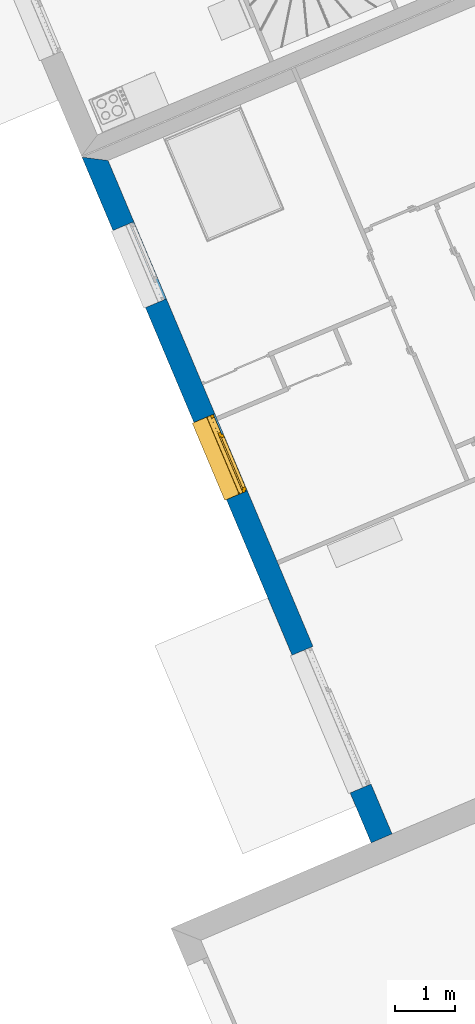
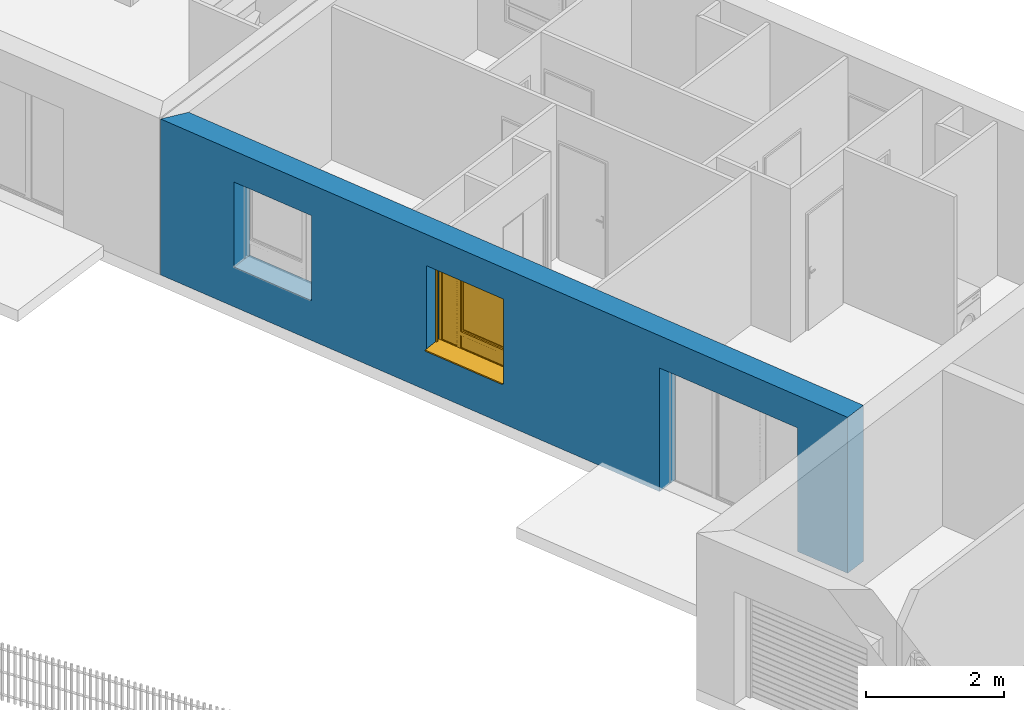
# One storey, part 50 of 195: 1 wall, 1 window, 3 openings.
"""IFC2X3 building model written with IfcOpenShell, lengths in metres."""

from ifc_helpers import new_model, entity, si_unit, converted_unit, derived_unit, money_unit, direction, frame, origin_with_axes, place, context, subcontext, project, spatial, polyline, outline, extrude, open_shell, faceted_brep, surface_model, source, transform, mapped, material, layer, layer_set, layer_usage, type_object, element, fill, save


model = new_model("IFC2X3")

# Units and contexts
model_context = context("Model", 3, precision=1e-05, world=origin_with_axes(), true_north=direction((0.0, 1.0)))
body_context = subcontext(model_context, "Body", "Model", "MODEL_VIEW")
ifc_project = project(units=[si_unit("LENGTHUNIT", "METRE"), si_unit("AREAUNIT", "SQUARE_METRE"), si_unit("VOLUMEUNIT", "CUBIC_METRE"), converted_unit("PLANEANGLEUNIT", "DEGREE", entity("IfcPlaneAngleMeasure", 0.0174532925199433), si_unit("PLANEANGLEUNIT", "RADIAN"), dimensions=[0, 0, 0, 0, 0, 0, 0]), money_unit("CHF"), converted_unit("TIMEUNIT", "Year", entity("IfcTimeMeasure", 31557600.0), si_unit("TIMEUNIT", "SECOND"), dimensions=[0, 0, 1, 0, 0, 0, 0]), si_unit("MASSUNIT", "GRAM", prefix="KILO"), si_unit("THERMODYNAMICTEMPERATUREUNIT", "DEGREE_CELSIUS"), si_unit("LUMINOUSINTENSITYUNIT", "LUMEN"), si_unit("ENERGYUNIT", "JOULE", prefix="MEGA"), derived_unit("THERMALCONDUCTANCEUNIT", [(si_unit("POWERUNIT", "WATT"), 1), (si_unit("LENGTHUNIT", "METRE"), -1), (si_unit("THERMODYNAMICTEMPERATUREUNIT", "KELVIN"), -1)]), derived_unit("SPECIFICHEATCAPACITYUNIT", [(si_unit("ENERGYUNIT", "JOULE"), 1), (si_unit("MASSUNIT", "GRAM", prefix="KILO"), -1), (si_unit("THERMODYNAMICTEMPERATUREUNIT", "KELVIN"), -1)]), derived_unit("MASSDENSITYUNIT", [(si_unit("MASSUNIT", "GRAM", prefix="KILO"), 1), (si_unit("VOLUMEUNIT", "CUBIC_METRE"), -1)])], contexts=[model_context])

# Site, building, storey
site_placement = place(None, origin_with_axes())
site = spatial("IfcSite", under=ifc_project, at=site_placement, Name="Site", CompositionType="ELEMENT")
building_placement = place(site_placement, origin_with_axes())
building = spatial("IfcBuilding", under=site, at=building_placement, Name="Bâtiment", CompositionType="ELEMENT")
storey_placement = place(building_placement, origin_with_axes())
storey = spatial("IfcBuildingStorey", under=building, at=storey_placement, Name="rdc", CompositionType="ELEMENT", Elevation=0.0)

# Wall, openings, window
ifc_material_1 = material(Name="Parpaing 312445824")
ifc_layer_1 = layer(ifc_material_1, 0.22, ventilated="UNKNOWN")
ifc_material_2 = material(Name="Isolant styromousse 301821074")
ifc_layer_2 = layer(ifc_material_2, 0.16, ventilated="UNKNOWN")
ifc_layer_set = layer_set([ifc_layer_1, ifc_layer_2], Name="isol int 22+16 0836643197")
ifc_layer_usage = layer_usage(ifc_layer_set, "AXIS2", "POSITIVE", 0.0)
wall_type = type_object("IfcWallType", Name="isol int 22+16 0836643197 380", PredefinedType="NOTDEFINED")
wall_placement = place(storey_placement, frame((9563.373486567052, -1045.540246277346, 57.7), z_axis=(0.0, 0.0, 1.0), x_axis=(0.388566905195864, -0.9214205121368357, 0.0)))
wall = element("IfcWallStandardCase", 1, at=wall_placement, inside=storey, type_object=wall_type, material=ifc_layer_usage, Name="Mur-113", context=body_context, shape_type="SweptSolid", body=[
    extrude(outline(polyline([(-0.2199999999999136, 0.0), (12.22992275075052, 0.0), (12.22820255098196, 0.3800000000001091), (0.0, 0.3800000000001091), (-0.2199999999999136, 0.0)])), origin_with_axes(), (0.0, 0.0, 1.0), 2.75),
])
opening_1_placement = place(wall_placement, frame((5.297694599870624, 0.0, 0.7000000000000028), z_axis=(0.0, 0.0, 1.0), x_axis=(1.0, 0.0, 0.0)))
opening_1 = element("IfcOpeningElement", 2, at=opening_1_placement, cuts=wall, Name="Fen-045", context=body_context, shape_type="Brep", body=[
    faceted_brep([(-0.7000000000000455, 0.4799999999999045, 1.5), (0.6999999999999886, 0.4799999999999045, 1.5), (0.7000000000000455, 4.75972225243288, 1.5), (-0.6999999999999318, 4.75972225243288, 1.5), (-0.7000000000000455, 0.4799999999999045, 1.700000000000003), (0.6999999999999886, 0.4799999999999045, 1.700000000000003), (0.6999999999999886, 0.2999999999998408, 1.5), (0.6999999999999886, 0.2999999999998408, 0.0), (0.7000000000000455, 4.75972225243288, 0.0), (-0.6999999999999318, 4.75972225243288, 0.0), (-0.6999999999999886, 0.2999999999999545, 1.5), (-0.6999999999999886, 0.2999999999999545, 0.0), (-0.6999999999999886, 0.2199999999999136, 1.5), (-0.6999999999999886, 0.2199999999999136, 1.700000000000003), (0.7000000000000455, 0.2199999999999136, 1.700000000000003), (0.7000000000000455, 0.2199999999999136, 1.5), (0.6999999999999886, -4.379722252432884, 1.5), (0.6999999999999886, -4.379722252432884, 0.0), (-0.6999999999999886, -4.379722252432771, 0.0), (-0.6999999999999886, -4.379722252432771, 1.5)], [[[0, 1, 2, 3]], [[1, 0, 4, 5]], [[1, 6, 7, 8, 2]], [[2, 8, 9, 3]], [[10, 0, 3, 9, 11]], [[0, 10, 12, 13, 4]], [[4, 13, 14, 5]], [[6, 1, 5, 14, 15]], [[6, 15, 16, 17, 7]], [[7, 11, 9, 8]], [[12, 10, 11, 18, 19]], [[12, 15, 14, 13]], [[15, 12, 19, 16]], [[19, 18, 17, 16]], [[11, 7, 17, 18]]]),
])
opening_2_placement = place(wall_placement, frame((1.812199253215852, 0.0, 0.7000000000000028), z_axis=(0.0, 0.0, 1.0), x_axis=(1.0, 0.0, 0.0)))
element("IfcOpeningElement", 3, at=opening_2_placement, cuts=wall, Name="Fen-045", context=body_context, shape_type="Brep", body=[
    faceted_brep([(-0.7000000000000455, 0.4799999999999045, 1.5), (0.6999999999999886, 0.4799999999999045, 1.5), (0.6999999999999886, 4.759722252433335, 1.5), (-0.6999999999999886, 4.759722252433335, 1.5), (-0.7000000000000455, 0.4799999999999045, 1.700000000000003), (0.6999999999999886, 0.4799999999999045, 1.700000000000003), (0.6999999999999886, 0.3000000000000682, 1.5), (0.6999999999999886, 0.3000000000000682, 0.0), (0.6999999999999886, 4.759722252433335, 0.0), (-0.6999999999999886, 4.759722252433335, 0.0), (-0.6999999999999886, 0.3000000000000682, 1.5), (-0.6999999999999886, 0.2999999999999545, 0.0), (-0.6999999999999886, 0.2200000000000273, 1.5), (-0.6999999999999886, 0.2200000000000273, 1.700000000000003), (0.6999999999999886, 0.2200000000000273, 1.700000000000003), (0.6999999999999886, 0.2200000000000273, 1.5), (0.6999999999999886, -4.379722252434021, 1.5), (0.6999999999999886, -4.379722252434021, 0.0), (-0.6999999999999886, -4.379722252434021, 0.0), (-0.6999999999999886, -4.379722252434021, 1.5)], [[[0, 1, 2, 3]], [[1, 0, 4, 5]], [[1, 6, 7, 8, 2]], [[2, 8, 9, 3]], [[10, 0, 3, 9, 11]], [[0, 10, 12, 13, 4]], [[14, 5, 4, 13]], [[6, 1, 5, 14, 15]], [[6, 15, 16, 17, 7]], [[7, 11, 9, 8]], [[12, 10, 11, 18, 19]], [[12, 15, 14, 13]], [[15, 12, 19, 16]], [[19, 18, 17, 16]], [[11, 7, 17, 18]]]),
])
opening_3_placement = place(wall_placement, frame((10.07283339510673, 0.0, 0.0), z_axis=(0.0, 0.0, 1.0), x_axis=(1.0, 0.0, 0.0)))
element("IfcOpeningElement", 4, at=opening_3_placement, cuts=wall, Name="Fen-045", context=body_context, shape_type="Brep", body=[
    faceted_brep([(-1.250000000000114, 0.4799999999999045, 2.18), (1.249999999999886, 0.4800000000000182, 2.18), (1.249999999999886, 4.759722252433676, 2.18), (-1.250000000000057, 4.759722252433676, 2.18), (-1.250000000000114, 0.4799999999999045, 2.380000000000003), (1.249999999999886, 0.4800000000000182, 2.380000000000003), (1.249999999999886, 0.3000000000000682, 2.18), (1.249999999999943, 0.3000000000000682, 0.0), (1.249999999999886, 4.759722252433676, 0.0), (-1.250000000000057, 4.759722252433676, 0.0), (-1.250000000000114, 0.3000000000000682, 2.18), (-1.250000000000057, 0.3000000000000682, 0.0), (-1.250000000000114, 0.2199999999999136, 2.18), (-1.250000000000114, 0.2199999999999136, 2.380000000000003), (1.249999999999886, 0.2199999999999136, 2.380000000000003), (1.249999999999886, 0.2199999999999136, 2.18), (1.249999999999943, -4.379722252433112, 2.18), (1.249999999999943, -4.379722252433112, 0.0), (-1.250000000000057, -4.379722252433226, 0.0), (-1.250000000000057, -4.379722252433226, 2.18)], [[[0, 1, 2, 3]], [[1, 0, 4, 5]], [[1, 6, 7, 8, 2]], [[2, 8, 9, 3]], [[10, 0, 3, 9, 11]], [[0, 10, 12, 13, 4]], [[4, 13, 14, 5]], [[6, 1, 5, 14, 15]], [[6, 15, 16, 17, 7]], [[7, 11, 9, 8]], [[12, 10, 11, 18, 19]], [[12, 15, 14, 13]], [[15, 12, 19, 16]], [[19, 18, 17, 16]], [[11, 7, 17, 18]]]),
])
window_style = type_object("IfcWindowStyle", Name="Fenêtre variable 27", ConstructionType="NOTDEFINED", OperationType="TRIPLE_PANEL_LEFT", ParameterTakesPrecedence=False, Sizeable=False)
shared_shape = source(origin_with_axes(), body_context, "Body", "SurfaceModel", [
    surface_model("IfcShellBasedSurfaceModel", [(0.7, -0.05100000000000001, 0.05), (-0.7, -0.05100000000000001, 0.05000000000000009), (-0.7, -0.05100000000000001, 0.04000000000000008), (0.7, -0.05100000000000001, 0.04), (-0.7, -0.3799999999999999, 0.02900000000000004), (0.7, -0.3799999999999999, 0.02899999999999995), (-0.7, -0.3799999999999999, 0.00900000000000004), (0.7, -0.3799999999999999, 0.008999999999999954), (-0.7, -0.3699999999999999, 0.01900000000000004), (0.7, -0.3699999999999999, 0.01899999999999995)], [open_shell([[[0, 1, 2, 3]], [[3, 2, 4, 5]], [[5, 4, 6, 7]], [[7, 6, 8, 9]]])]),
    faceted_brep([(0.7, -0.13, 1.7), (0.7, 0.13, 1.7), (0.697, 0.13, 1.7), (0.697, -0.13, 1.7), (0.7, -0.13, 1.5), (0.7, 0.13, 1.5), (0.697, 0.13, 1.5), (0.697, -0.13, 1.5)], [[[0, 1, 2, 3]], [[0, 4, 5, 1]], [[1, 5, 6, 2]], [[3, 2, 6, 7]], [[4, 0, 3, 7]], [[5, 4, 7, 6]]]),
    faceted_brep([(-0.6970000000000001, -0.1299999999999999, 1.7), (-0.6970000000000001, 0.1300000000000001, 1.7), (-0.7000000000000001, 0.1300000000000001, 1.7), (-0.7000000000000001, -0.1299999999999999, 1.7), (-0.6970000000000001, -0.1299999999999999, 1.5), (-0.6970000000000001, 0.1300000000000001, 1.5), (-0.7000000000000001, 0.1300000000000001, 1.5), (-0.7000000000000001, -0.1299999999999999, 1.5)], [[[0, 1, 2, 3]], [[0, 4, 5, 1]], [[1, 5, 6, 2]], [[3, 2, 6, 7]], [[4, 0, 3, 7]], [[5, 4, 7, 6]]]),
    faceted_brep([(0.697, -0.13, 1.5), (0.697, -0.13, 1.7), (-0.697, -0.1299999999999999, 1.7), (-0.697, -0.1299999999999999, 1.5), (0.697, -0.127, 1.5), (0.697, -0.127, 1.697), (0.697, 0.127, 1.697), (0.697, 0.127, 1.503), (0.697, -0.108, 1.503), (0.697, -0.108, 1.5), (0.697, 0.13, 1.5), (0.697, 0.13, 1.7), (-0.697, 0.1300000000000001, 1.7), (-0.697, 0.1300000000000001, 1.5), (-0.697, -0.1079999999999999, 1.5), (-0.697, -0.1079999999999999, 1.503), (-0.697, 0.1270000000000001, 1.503), (-0.697, 0.1270000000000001, 1.697), (-0.697, -0.1269999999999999, 1.697), (-0.697, -0.1269999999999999, 1.5)], [[[0, 1, 2, 3]], [[0, 4, 5, 6, 7, 8, 9, 10, 11, 1]], [[1, 11, 12, 2]], [[3, 2, 12, 13, 14, 15, 16, 17, 18, 19]], [[4, 0, 3, 19]], [[5, 4, 19, 18]], [[6, 5, 18, 17]], [[7, 6, 17, 16]], [[8, 7, 16, 15]], [[9, 8, 15, 14]], [[10, 9, 14, 13]], [[11, 10, 13, 12]]]),
    faceted_brep([(0.694, -0.08075423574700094, 1.585760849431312), (0.694, -0.07705479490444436, 1.571954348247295), (0.694, -0.07101408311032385, 1.559), (0.694, -0.06281564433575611, 1.547291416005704), (0.694, -0.05270858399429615, 1.537184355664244), (0.694, -0.04099999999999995, 1.528985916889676), (0.694, -0.02804565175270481, 1.522945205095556), (0.694, -0.01423915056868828, 1.519245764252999), (0.694, 0.0, 1.518), (0.694, 0.01423915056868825, 1.519245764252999), (0.694, 0.02804565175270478, 1.522945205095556), (0.694, 0.04099999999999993, 1.528985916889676), (0.694, 0.05270858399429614, 1.537184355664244), (0.694, 0.06281564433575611, 1.547291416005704), (0.694, 0.07101408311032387, 1.559), (0.694, 0.07705479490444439, 1.571954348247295), (0.694, 0.08075423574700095, 1.585760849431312), (0.694, 0.0819999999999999, 1.6), (0.694, 0.08075423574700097, 1.614239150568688), (0.694, 0.0770547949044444, 1.628045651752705), (0.694, 0.07101408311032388, 1.641), (0.694, 0.06281564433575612, 1.652708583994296), (0.694, 0.05270858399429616, 1.662815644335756), (0.694, 0.04099999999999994, 1.671014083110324), (0.694, 0.02804565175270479, 1.677054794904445), (0.694, 0.01423915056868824, 1.680754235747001), (0.694, 0.0, 1.682), (0.694, -0.01423915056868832, 1.680754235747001), (0.694, -0.02804565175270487, 1.677054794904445), (0.694, -0.04100000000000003, 1.671014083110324), (0.694, -0.05270858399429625, 1.662815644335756), (0.694, -0.06281564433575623, 1.652708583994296), (0.694, -0.07101408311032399, 1.641), (0.694, -0.07705479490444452, 1.628045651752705), (0.694, -0.0807542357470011, 1.614239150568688), (0.694, -0.08200000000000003, 1.6), (-0.694, -0.08075423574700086, 1.585760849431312), (-0.694, -0.07705479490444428, 1.571954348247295), (-0.694, -0.07101408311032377, 1.559), (-0.694, -0.06281564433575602, 1.547291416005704), (-0.694, -0.05270858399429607, 1.537184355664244), (-0.694, -0.04099999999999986, 1.528985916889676), (-0.694, -0.02804565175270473, 1.522945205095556), (-0.694, -0.0142391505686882, 1.519245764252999), (-0.694, 0.0, 1.518), (-0.694, 0.01423915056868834, 1.519245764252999), (-0.694, 0.02804565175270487, 1.522945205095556), (-0.694, 0.04100000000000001, 1.528985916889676), (-0.694, 0.05270858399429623, 1.537184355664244), (-0.694, 0.06281564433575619, 1.547291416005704), (-0.694, 0.07101408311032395, 1.559), (-0.694, 0.07705479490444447, 1.571954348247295), (-0.694, 0.08075423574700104, 1.585760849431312), (-0.694, 0.08199999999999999, 1.6), (-0.694, 0.08075423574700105, 1.614239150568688), (-0.694, 0.07705479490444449, 1.628045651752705), (-0.694, 0.07101408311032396, 1.641), (-0.694, 0.0628156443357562, 1.652708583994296), (-0.694, 0.05270858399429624, 1.662815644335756), (-0.694, 0.04100000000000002, 1.671014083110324), (-0.694, 0.02804565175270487, 1.677054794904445), (-0.694, 0.01423915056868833, 1.680754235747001), (-0.694, 0.0, 1.682), (-0.694, -0.01423915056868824, 1.680754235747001), (-0.694, -0.02804565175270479, 1.677054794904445), (-0.694, -0.04099999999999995, 1.671014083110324), (-0.694, -0.05270858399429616, 1.662815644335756), (-0.694, -0.06281564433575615, 1.652708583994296), (-0.694, -0.07101408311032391, 1.641), (-0.694, -0.07705479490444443, 1.628045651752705), (-0.694, -0.08075423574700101, 1.614239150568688), (-0.694, -0.08199999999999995, 1.6)], [[[0, 1, 2, 3, 4, 5, 6, 7, 8, 9, 10, 11, 12, 13, 14, 15, 16, 17, 18, 19, 20, 21, 22, 23, 24, 25, 26, 27, 28, 29, 30, 31, 32, 33, 34, 35]], [[1, 0, 36, 37]], [[2, 1, 37, 38]], [[3, 2, 38, 39]], [[4, 3, 39, 40]], [[5, 4, 40, 41]], [[6, 5, 41, 42]], [[7, 6, 42, 43]], [[8, 7, 43, 44]], [[9, 8, 44, 45]], [[10, 9, 45, 46]], [[11, 10, 46, 47]], [[12, 11, 47, 48]], [[13, 12, 48, 49]], [[14, 13, 49, 50]], [[15, 14, 50, 51]], [[16, 15, 51, 52]], [[17, 16, 52, 53]], [[18, 17, 53, 54]], [[19, 18, 54, 55]], [[20, 19, 55, 56]], [[21, 20, 56, 57]], [[22, 21, 57, 58]], [[23, 22, 58, 59]], [[24, 23, 59, 60]], [[25, 24, 60, 61]], [[26, 25, 61, 62]], [[27, 26, 62, 63]], [[28, 27, 63, 64]], [[29, 28, 64, 65]], [[30, 29, 65, 66]], [[31, 30, 66, 67]], [[32, 31, 67, 68]], [[33, 32, 68, 69]], [[34, 33, 69, 70]], [[35, 34, 70, 71]], [[0, 35, 71, 36]], [[36, 71, 70, 69, 68, 67, 66, 65, 64, 63, 62, 61, 60, 59, 58, 57, 56, 55, 54, 53, 52, 51, 50, 49, 48, 47, 46, 45, 44, 43, 42, 41, 40, 39, 38, 37]]]),
    faceted_brep([(-0.7, -0.105, 0.03), (-0.7, -0.13, 0.03), (-0.7, -0.1299999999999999, 1.5), (-0.7, -0.1049999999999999, 1.5), (-0.6749999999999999, -0.105, 0.03), (-0.6749999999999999, -0.108, 0.03), (-0.697, -0.108, 0.03), (-0.697, -0.127, 0.03), (-0.6749999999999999, -0.127, 0.03), (-0.6749999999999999, -0.13, 0.03), (-0.6749999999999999, -0.1299999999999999, 1.5), (-0.6749999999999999, -0.1269999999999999, 1.5), (-0.697, -0.1269999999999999, 1.5), (-0.697, -0.1079999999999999, 1.5), (-0.6749999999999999, -0.1079999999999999, 1.5), (-0.6749999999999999, -0.1049999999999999, 1.5)], [[[0, 1, 2, 3]], [[0, 4, 5, 6, 7, 8, 9, 1]], [[1, 9, 10, 2]], [[3, 2, 10, 11, 12, 13, 14, 15]], [[4, 0, 3, 15]], [[5, 4, 15, 14]], [[6, 5, 14, 13]], [[7, 6, 13, 12]], [[8, 7, 12, 11]], [[9, 8, 11, 10]]]),
    faceted_brep([(0.7, -0.105, 0.03), (0.7, -0.1049999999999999, 1.5), (0.7, -0.1299999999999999, 1.5), (0.7, -0.13, 0.03), (0.6749999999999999, -0.105, 0.03), (0.6749999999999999, -0.1049999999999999, 1.5), (0.6749999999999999, -0.1079999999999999, 1.5), (0.697, -0.1079999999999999, 1.5), (0.697, -0.1269999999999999, 1.5), (0.6749999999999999, -0.1269999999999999, 1.5), (0.6749999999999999, -0.1299999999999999, 1.5), (0.6749999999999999, -0.13, 0.03), (0.6749999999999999, -0.127, 0.03), (0.697, -0.127, 0.03), (0.697, -0.108, 0.03), (0.6749999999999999, -0.108, 0.03)], [[[0, 1, 2, 3]], [[4, 5, 1, 0]], [[1, 5, 6, 7, 8, 9, 10, 2]], [[3, 2, 10, 11]], [[0, 3, 11, 12, 13, 14, 15, 4]], [[15, 6, 5, 4]], [[14, 7, 6, 15]], [[13, 8, 7, 14]], [[12, 9, 8, 13]], [[11, 10, 9, 12]]]),
    surface_model("IfcShellBasedSurfaceModel", [(0.697, -0.115, 1.6), (-0.697, -0.1149999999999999, 1.6), (-0.697, -0.12, 1.6), (0.697, -0.12, 1.6), (0.697, -0.115, 1.6), (0.697, -0.12, 1.6), (-0.697, -0.1199999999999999, 1.6), (-0.697, -0.1149999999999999, 1.6)], [open_shell([[[0, 1, 2, 3]], [[4, 5, 6, 7]]])]),
    faceted_brep([(0.697, -0.115, 1.6), (0.697, -0.1166666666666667, 1.583333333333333), (-0.697, -0.1166666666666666, 1.583333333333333), (-0.697, -0.1149999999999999, 1.6), (0.697, -0.12, 1.6), (0.697, -0.1216666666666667, 1.583333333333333), (0.697, -0.1216666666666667, 1.566666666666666), (0.697, -0.12, 1.55), (0.697, -0.115, 1.55), (0.697, -0.1166666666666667, 1.566666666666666), (-0.697, -0.1166666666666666, 1.566666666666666), (-0.697, -0.1149999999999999, 1.55), (-0.697, -0.1199999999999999, 1.55), (-0.697, -0.1216666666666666, 1.566666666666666), (-0.697, -0.1216666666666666, 1.583333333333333), (-0.697, -0.1199999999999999, 1.6)], [[[0, 1, 2, 3]], [[0, 4, 5, 6, 7, 8, 9, 1]], [[1, 9, 10, 2]], [[3, 2, 10, 11, 12, 13, 14, 15]], [[4, 0, 3, 15]], [[5, 4, 15, 14]], [[6, 5, 14, 13]], [[7, 6, 13, 12]], [[8, 7, 12, 11]], [[9, 8, 11, 10]]]),
    faceted_brep([(0.697, -0.115, 1.55), (0.697, -0.1166666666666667, 1.533333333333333), (-0.697, -0.1166666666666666, 1.533333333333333), (-0.697, -0.1149999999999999, 1.55), (0.697, -0.12, 1.55), (0.697, -0.1216666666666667, 1.533333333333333), (0.697, -0.1216666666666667, 1.516666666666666), (0.697, -0.12, 1.5), (0.697, -0.115, 1.5), (0.697, -0.1166666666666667, 1.516666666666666), (-0.697, -0.1166666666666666, 1.516666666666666), (-0.697, -0.1149999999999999, 1.5), (-0.697, -0.1199999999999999, 1.5), (-0.697, -0.1216666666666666, 1.516666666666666), (-0.697, -0.1216666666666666, 1.533333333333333), (-0.697, -0.1199999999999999, 1.55)], [[[0, 1, 2, 3]], [[0, 4, 5, 6, 7, 8, 9, 1]], [[1, 9, 10, 2]], [[3, 2, 10, 11, 12, 13, 14, 15]], [[4, 0, 3, 15]], [[5, 4, 15, 14]], [[6, 5, 14, 13]], [[7, 6, 13, 12]], [[8, 7, 12, 11]], [[9, 8, 11, 10]]]),
    faceted_brep([(0.6749999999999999, 0.0, 1.45), (0.6749999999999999, -0.02500000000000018, 1.45), (0.6499999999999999, -0.02500000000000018, 1.45), (0.6499999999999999, -0.05000000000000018, 1.45), (0.7, -0.05000000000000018, 1.45), (0.7, 0.0, 1.45), (0.6749999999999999, 0.0, 0.3099999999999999), (0.6749999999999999, -0.02500000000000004, 0.3099999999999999), (0.6499999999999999, -0.02500000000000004, 0.335), (0.6499999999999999, -0.02500000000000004, 0.3099999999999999), (0.6499999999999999, -0.05000000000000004, 0.335), (0.6499999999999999, -0.05000000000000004, 0.265), (0.6499999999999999, -0.05000000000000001, 0.05000000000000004), (0.7, -0.05000000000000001, 0.05000000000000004), (0.7, 0.0, 0.05000000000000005), (0.6499999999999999, 0.0, 0.05000000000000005), (0.6499999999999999, 0.0, 0.265), (0.6499999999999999, 0.0, 0.3099999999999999)], [[[0, 1, 2, 3, 4, 5]], [[1, 0, 6, 7]], [[8, 2, 1, 7, 9]], [[2, 8, 10, 3]], [[10, 11, 12, 13, 4, 3]], [[5, 4, 13, 14]], [[6, 0, 5, 14, 15, 16, 17]], [[6, 17, 9, 7]], [[9, 17, 16, 11, 10, 8]], [[15, 12, 11, 16]], [[14, 13, 12, 15]]]),
    faceted_brep([(-0.3068894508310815, -0.02500000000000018, 1.45), (-0.3318894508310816, -0.02500000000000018, 1.45), (-0.3318894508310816, 0.0, 1.45), (-0.3768894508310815, 0.0, 1.45), (-0.3768894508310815, -0.05000000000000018, 1.45), (-0.3068894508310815, -0.05000000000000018, 1.45), (-0.3068894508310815, -0.02500000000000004, 0.335), (-0.3068894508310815, -0.02500000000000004, 0.3099999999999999), (-0.3318894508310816, -0.02500000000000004, 0.3099999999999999), (-0.3318894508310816, 0.0, 0.3099999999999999), (-0.3068894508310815, 0.0, 0.3099999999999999), (-0.3068894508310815, 0.0, 0.265), (-0.3068894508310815, 0.0, 0.05000000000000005), (-0.3768894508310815, 0.0, 0.05000000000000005), (-0.3768894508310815, -0.05000000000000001, 0.05000000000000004), (-0.3068894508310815, -0.05000000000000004, 0.265), (-0.3068894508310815, -0.05000000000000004, 0.335), (-0.3068894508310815, -0.05000000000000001, 0.05000000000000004)], [[[0, 1, 2, 3, 4, 5]], [[1, 0, 6, 7, 8]], [[9, 2, 1, 8]], [[9, 10, 11, 12, 13, 3, 2]], [[13, 14, 4, 3]], [[15, 16, 5, 4, 14, 17]], [[6, 0, 5, 16]], [[7, 6, 16, 15, 11, 10]], [[10, 9, 8, 7]], [[11, 15, 17, 12]], [[12, 17, 14, 13]]]),
    faceted_brep([(0.6499999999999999, -0.02500000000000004, 0.335), (-0.3068894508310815, -0.02500000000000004, 0.335), (-0.3068894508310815, -0.05000000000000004, 0.335), (0.6499999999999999, -0.05000000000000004, 0.335), (-0.3068894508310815, -0.02500000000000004, 0.3099999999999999), (0.6499999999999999, -0.02500000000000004, 0.3099999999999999), (-0.3068894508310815, 0.0, 0.3099999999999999), (-0.3068894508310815, 0.0, 0.265), (-0.3068894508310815, -0.05000000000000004, 0.265), (0.6499999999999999, -0.05000000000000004, 0.265), (0.6499999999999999, 0.0, 0.265), (0.6499999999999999, 0.0, 0.3099999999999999)], [[[0, 1, 2, 3]], [[4, 1, 0, 5]], [[4, 6, 7, 8, 2, 1]], [[2, 8, 9, 3]], [[5, 0, 3, 9, 10, 11]], [[11, 6, 4, 5]], [[6, 11, 10, 7]], [[10, 9, 8, 7]]]),
    faceted_brep([(0.6749999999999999, 0.0, 1.45), (0.6749999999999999, 0.0, 1.475), (-0.3318894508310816, 0.0, 1.475), (-0.3318894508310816, 0.0, 1.45), (-0.3768894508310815, 0.0, 1.45), (-0.6499999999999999, 0.0, 1.45), (-0.7, 0.0, 1.45), (-0.7, 0.0, 1.5), (0.7, 0.0, 1.5), (0.7, 0.0, 1.45), (0.6749999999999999, -0.02500000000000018, 1.45), (0.6749999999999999, -0.02500000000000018, 1.475), (-0.3318894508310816, -0.02500000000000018, 1.475), (-0.3318894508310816, -0.02500000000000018, 1.45), (-0.3068894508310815, -0.02500000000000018, 1.45), (-0.3068894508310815, -0.05000000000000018, 1.45), (-0.3768894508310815, -0.05000000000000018, 1.45), (-0.6499999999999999, -0.05000000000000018, 1.45), (-0.7, -0.05000000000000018, 1.45), (-0.7, -0.05000000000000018, 1.5), (0.7, -0.05000000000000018, 1.5), (0.7, -0.05000000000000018, 1.45), (0.6499999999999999, -0.05000000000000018, 1.45), (0.6499999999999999, -0.02500000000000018, 1.45)], [[[0, 1, 2, 3, 4, 5, 6, 7, 8, 9]], [[1, 0, 10, 11]], [[2, 1, 11, 12]], [[3, 2, 12, 13]], [[13, 14, 15, 16, 4, 3]], [[4, 16, 17, 5]], [[5, 17, 18, 6]], [[6, 18, 19, 7]], [[7, 19, 20, 8]], [[8, 20, 21, 9]], [[10, 0, 9, 21, 22, 23]], [[14, 13, 12, 11, 10, 23]], [[14, 23, 22, 15]], [[16, 15, 22, 21, 20, 19, 18, 17]]]),
    faceted_brep([(-0.6499999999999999, -0.05000000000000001, 0.05), (-0.7, -0.05000000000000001, 0.05), (-0.7, 0.0, 0.05000000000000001), (-0.6499999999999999, 0.0, 0.05000000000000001), (-0.6499999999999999, -0.05000000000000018, 1.45), (-0.7, -0.05000000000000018, 1.45), (-0.7, 0.0, 1.45), (-0.6499999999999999, 0.0, 1.45)], [[[0, 1, 2, 3]], [[0, 4, 5, 1]], [[1, 5, 6, 2]], [[3, 2, 6, 7]], [[4, 0, 3, 7]], [[5, 4, 7, 6]]]),
    faceted_brep([(0.6499999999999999, -0.05000000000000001, 0.05), (0.7, -0.05000000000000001, 0.05), (0.7, 0.0, 0.05000000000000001), (0.6499999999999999, 0.0, 0.05000000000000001), (-0.3068894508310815, -0.05000000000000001, 0.05), (-0.3768894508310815, -0.05000000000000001, 0.05), (-0.6499999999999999, -0.05000000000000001, 0.05), (-0.7, -0.05000000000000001, 0.05), (-0.7, -0.05, 0.0), (0.7, -0.05, 0.0), (0.7, 0.0, 0.0), (-0.7, 0.0, 0.0), (-0.7, 0.0, 0.05000000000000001), (-0.6499999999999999, 0.0, 0.05000000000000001), (-0.3768894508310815, 0.0, 0.05000000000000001), (-0.3068894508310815, 0.0, 0.05000000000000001)], [[[0, 1, 2, 3]], [[0, 4, 5, 6, 7, 8, 9, 1]], [[1, 9, 10, 2]], [[3, 2, 10, 11, 12, 13, 14, 15]], [[4, 0, 3, 15]], [[5, 4, 15, 14]], [[6, 5, 14, 13]], [[7, 6, 13, 12]], [[8, 7, 12, 11]], [[9, 8, 11, 10]]]),
    faceted_brep([(0.625, -0.02500000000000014, 1.425), (0.6749999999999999, -0.02500000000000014, 1.425), (0.6749999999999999, 0.02499999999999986, 1.425), (0.625, 0.02499999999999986, 1.425), (0.625, -0.02500000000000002, 0.3599999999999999), (0.6749999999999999, -0.02500000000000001, 0.3599999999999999), (0.6749999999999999, 0.02499999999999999, 0.3599999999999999), (0.625, 0.02499999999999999, 0.3599999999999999)], [[[0, 1, 2, 3]], [[0, 4, 5, 1]], [[1, 5, 6, 2]], [[3, 2, 6, 7]], [[4, 0, 3, 7]], [[5, 4, 7, 6]]]),
    faceted_brep([(-0.2818894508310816, -0.02500000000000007, 0.3599999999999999), (-0.3318894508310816, -0.02500000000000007, 0.3599999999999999), (-0.3318894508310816, 0.02499999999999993, 0.3599999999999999), (-0.2818894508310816, 0.02499999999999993, 0.3599999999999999), (-0.2818894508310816, -0.0250000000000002, 1.425), (-0.3318894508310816, -0.0250000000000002, 1.425), (-0.3318894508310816, 0.0249999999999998, 1.425), (-0.2818894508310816, 0.0249999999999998, 1.425)], [[[0, 1, 2, 3]], [[0, 4, 5, 1]], [[1, 5, 6, 2]], [[3, 2, 6, 7]], [[4, 0, 3, 7]], [[5, 4, 7, 6]]]),
    faceted_brep([(-0.3318894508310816, -0.02500000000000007, 0.3099999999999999), (-0.3318894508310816, -0.02500000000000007, 0.3599999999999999), (-0.3318894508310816, 0.02499999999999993, 0.3599999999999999), (-0.3318894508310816, 0.02499999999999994, 0.3099999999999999), (0.6749999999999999, -0.025, 0.3099999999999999), (0.6749999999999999, -0.02500000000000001, 0.3599999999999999), (0.625, -0.02500000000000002, 0.3599999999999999), (-0.2818894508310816, -0.02500000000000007, 0.3599999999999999), (-0.2818894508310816, 0.02499999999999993, 0.3599999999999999), (0.625, 0.02499999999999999, 0.3599999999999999), (0.6749999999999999, 0.02499999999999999, 0.3599999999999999), (0.6749999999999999, 0.02499999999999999, 0.3099999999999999)], [[[0, 1, 2, 3]], [[0, 4, 5, 6, 7, 1]], [[1, 7, 8, 2]], [[3, 2, 8, 9, 10, 11]], [[4, 0, 3, 11]], [[5, 4, 11, 10]], [[6, 5, 10, 9]], [[7, 6, 9, 8]]]),
    faceted_brep([(0.6749999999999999, -0.02500000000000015, 1.475), (0.6749999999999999, -0.02500000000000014, 1.425), (0.6749999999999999, 0.02499999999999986, 1.425), (0.6749999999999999, 0.02499999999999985, 1.475), (-0.3318894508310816, -0.02500000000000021, 1.475), (-0.3318894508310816, -0.0250000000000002, 1.425), (-0.2818894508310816, -0.0250000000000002, 1.425), (0.625, -0.02500000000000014, 1.425), (0.625, 0.02499999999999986, 1.425), (-0.2818894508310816, 0.0249999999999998, 1.425), (-0.3318894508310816, 0.0249999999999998, 1.425), (-0.3318894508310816, 0.02499999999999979, 1.475)], [[[0, 1, 2, 3]], [[0, 4, 5, 6, 7, 1]], [[1, 7, 8, 2]], [[3, 2, 8, 9, 10, 11]], [[4, 0, 3, 11]], [[5, 4, 11, 10]], [[6, 5, 10, 9]], [[7, 6, 9, 8]]]),
    surface_model("IfcShellBasedSurfaceModel", [(0.625, -0.01000000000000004, 0.3599999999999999), (0.625, -0.01000000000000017, 1.425), (-0.2818894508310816, -0.01000000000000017, 1.425), (-0.2818894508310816, -0.01000000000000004, 0.3599999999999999)], [open_shell([[[0, 1, 2, 3]]])]),
    surface_model("IfcShellBasedSurfaceModel", [(0.625, 0.009999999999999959, 0.3599999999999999), (-0.2818894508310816, 0.009999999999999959, 0.3599999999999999), (-0.2818894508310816, 0.00999999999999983, 1.425), (0.625, 0.00999999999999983, 1.425)], [open_shell([[[0, 1, 2, 3]]])]),
    surface_model("IfcShellBasedSurfaceModel", [(-0.3768894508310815, -0.035, 0.05), (-0.3768894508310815, -0.03500000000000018, 1.45), (-0.65, -0.03500000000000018, 1.45), (-0.65, -0.035, 0.05)], [open_shell([[[0, 1, 2, 3]]])]),
    surface_model("IfcShellBasedSurfaceModel", [(-0.3768894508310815, -0.015, 0.05), (-0.65, -0.015, 0.05), (-0.65, -0.01500000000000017, 1.45), (-0.3768894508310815, -0.01500000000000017, 1.45)], [open_shell([[[0, 1, 2, 3]]])]),
    surface_model("IfcShellBasedSurfaceModel", [(0.6499999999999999, -0.035, 0.05), (0.6499999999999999, -0.03500000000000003, 0.265), (-0.3068894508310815, -0.03500000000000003, 0.265), (-0.3068894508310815, -0.035, 0.05)], [open_shell([[[0, 1, 2, 3]]])]),
    surface_model("IfcShellBasedSurfaceModel", [(0.6499999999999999, -0.015, 0.05), (-0.3068894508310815, -0.015, 0.05), (-0.3068894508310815, -0.01500000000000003, 0.265), (0.6499999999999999, -0.01500000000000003, 0.265)], [open_shell([[[0, 1, 2, 3]]])]),
])
window_placement = place(opening_1_placement, frame((-0.6999999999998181, 0.0, 0.0), z_axis=(0.0, 0.0, 1.0), x_axis=(1.0, 0.0, 0.0)))
window = element("IfcWindow", 5, at=window_placement, inside=storey, type_object=window_style, Name="Fen-045", OverallHeight=1.5, OverallWidth=1.4, context=body_context, shape_type="MappedRepresentation", body=[
    mapped(shared_shape, transform((0.6999999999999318, 0.3500000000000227, 0.0))),
])
fill(opening_1, window)

save(model, "model.ifc")
